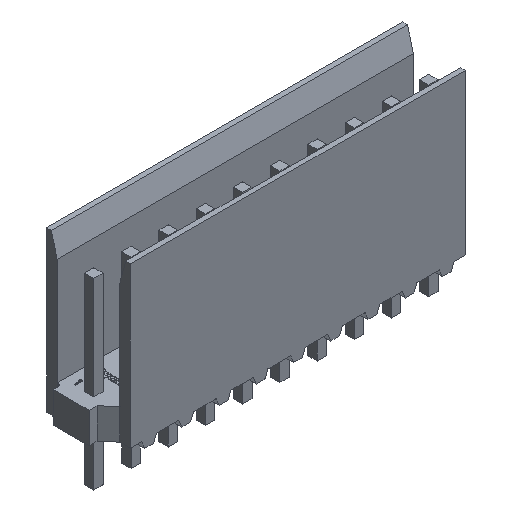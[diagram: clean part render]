
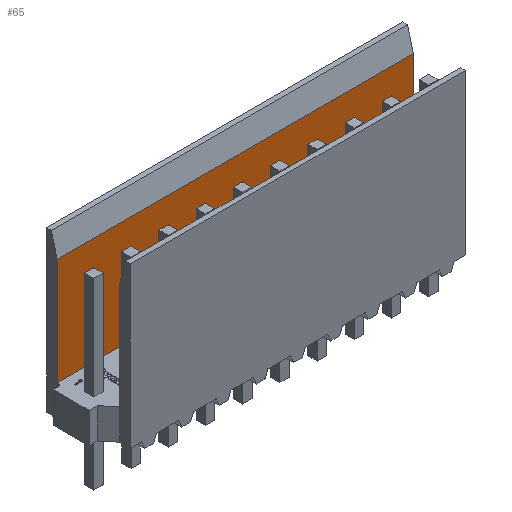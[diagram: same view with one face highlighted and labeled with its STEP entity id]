
A CAD part, isometric view. The second image highlights one B-rep face of the part: STEP entity #65.
In plain terms, the highlighted planar face has unit normal (0, -1, 0).
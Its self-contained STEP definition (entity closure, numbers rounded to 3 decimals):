
#65=ADVANCED_FACE('',(#406),#407,.T.);
#406=FACE_OUTER_BOUND('',#1046,.T.);
#407=PLANE('',#1047);
#1046=EDGE_LOOP('',(#1905,#1906,#1907,#1908));
#1047=AXIS2_PLACEMENT_3D('',#1909,#1910,#1911);
#1905=ORIENTED_EDGE('',*,*,#4398,.F.);
#1906=ORIENTED_EDGE('',*,*,#4259,.F.);
#1907=ORIENTED_EDGE('',*,*,#4390,.T.);
#1908=ORIENTED_EDGE('',*,*,#4397,.T.);
#1909=CARTESIAN_POINT('',(12.7,1.775,-8.8));
#1910=DIRECTION('',(0.0,-1.0,0.0));
#1911=DIRECTION('',(0.0,0.0,-1.0));
#4259=EDGE_CURVE('',#5138,#5141,#5142,.T.);
#4390=EDGE_CURVE('',#5138,#5388,#5389,.T.);
#4397=EDGE_CURVE('',#5388,#5399,#5401,.T.);
#4398=EDGE_CURVE('',#5141,#5399,#5402,.T.);
#5138=VERTEX_POINT('',#6545);
#5141=VERTEX_POINT('',#6549);
#5142=LINE('',#6550,#6551);
#5388=VERTEX_POINT('',#6898);
#5389=LINE('',#6899,#6900);
#5399=VERTEX_POINT('',#6915);
#5401=LINE('',#6918,#6919);
#5402=LINE('',#6920,#6921);
#6545=CARTESIAN_POINT('',(12.155,1.775,-8.8));
#6549=CARTESIAN_POINT('',(-12.155,1.775,-8.8));
#6550=CARTESIAN_POINT('',(12.155,1.775,-8.8));
#6551=VECTOR('',#8631,24.31);
#6898=CARTESIAN_POINT('',(12.155,1.775,-1.5));
#6899=CARTESIAN_POINT('',(12.155,1.775,-8.8));
#6900=VECTOR('',#8820,7.3);
#6915=CARTESIAN_POINT('',(-12.155,1.775,-1.5));
#6918=CARTESIAN_POINT('',(12.155,1.775,-1.5));
#6919=VECTOR('',#8827,24.31);
#6920=CARTESIAN_POINT('',(-12.155,1.775,-8.8));
#6921=VECTOR('',#8828,7.3);
#8631=DIRECTION('',(-1.0,0.0,0.0));
#8820=DIRECTION('',(0.0,0.0,1.0));
#8827=DIRECTION('',(-1.0,0.0,0.0));
#8828=DIRECTION('',(0.0,0.0,1.0));
